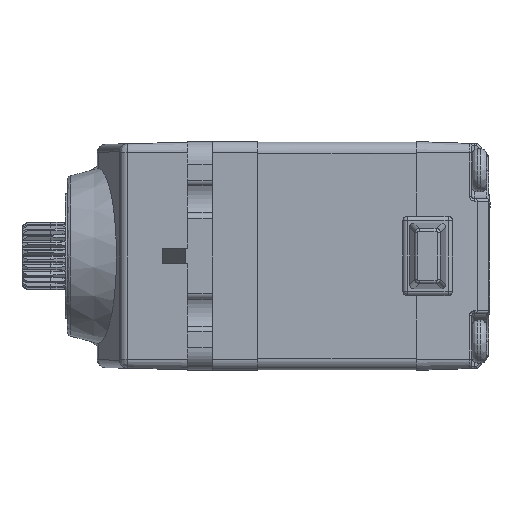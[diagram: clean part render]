
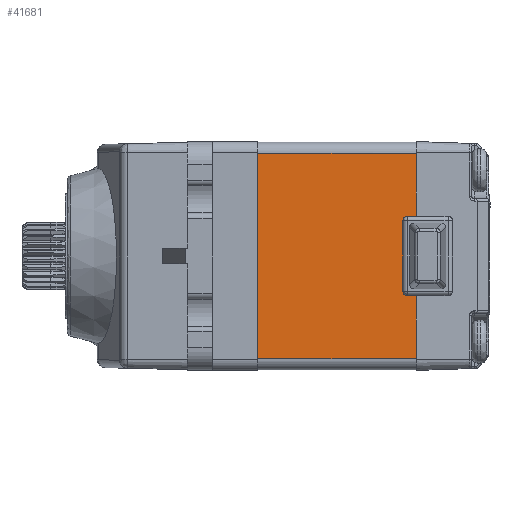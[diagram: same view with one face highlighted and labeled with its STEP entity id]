
A CAD part, left-side view. The second image highlights one B-rep face of the part: STEP entity #41681.
In plain terms, the highlighted planar face has unit normal (-1, 0, 0).
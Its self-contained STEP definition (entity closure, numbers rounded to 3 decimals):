
#293 = VECTOR ( 'NONE', #21950, 1000. ) ;
#501 = DIRECTION ( 'NONE',  ( 0., 0., -1. ) ) ;
#665 = DIRECTION ( 'NONE',  ( 0., 0., 1. ) ) ;
#2036 = CARTESIAN_POINT ( 'NONE',  ( -10.3, -4., -9.05 ) ) ;
#5808 = EDGE_CURVE ( 'NONE', #26012, #59942, #11778, .T. ) ;
#5958 = AXIS2_PLACEMENT_3D ( 'NONE', #10347, #49196, #32230 ) ;
#7373 = ORIENTED_EDGE ( 'NONE', *, *, #68847, .T. ) ;
#7451 = VERTEX_POINT ( 'NONE', #24563 ) ;
#8788 = LINE ( 'NONE', #61856, #30386 ) ;
#10347 = CARTESIAN_POINT ( 'NONE',  ( -10.3, -17.2, -3.1 ) ) ;
#11218 = CARTESIAN_POINT ( 'NONE',  ( -10.3, -18., 3.5 ) ) ;
#11241 = CARTESIAN_POINT ( 'NONE',  ( -10.3, -18., -3.5 ) ) ;
#11778 = CIRCLE ( 'NONE', #29801, 0.4 ) ;
#12563 = DIRECTION ( 'NONE',  ( -1., 0., 0. ) ) ;
#13571 = CARTESIAN_POINT ( 'NONE',  ( -10.3, -18., -9.05 ) ) ;
#16224 = ORIENTED_EDGE ( 'NONE', *, *, #23780, .T. ) ;
#16527 = ORIENTED_EDGE ( 'NONE', *, *, #66065, .T. ) ;
#16608 = VERTEX_POINT ( 'NONE', #39094 ) ;
#16630 = VERTEX_POINT ( 'NONE', #11218 ) ;
#16747 = LINE ( 'NONE', #38963, #17937 ) ;
#17261 = CIRCLE ( 'NONE', #5958, 0.4 ) ;
#17937 = VECTOR ( 'NONE', #501, 1000. ) ;
#18626 = VECTOR ( 'NONE', #69930, 1000. ) ;
#19017 = CARTESIAN_POINT ( 'NONE',  ( -10.3, -18., 7.2 ) ) ;
#19077 = LINE ( 'NONE', #50194, #40830 ) ;
#19694 = CARTESIAN_POINT ( 'NONE',  ( -10.3, -18., 3.5 ) ) ;
#20046 = CARTESIAN_POINT ( 'NONE',  ( -10.3, -18., 5.35 ) ) ;
#20364 = DIRECTION ( 'NONE',  ( 0., -1., 0. ) ) ;
#20423 = EDGE_CURVE ( 'NONE', #59599, #58272, #8788, .T. ) ;
#21493 = LINE ( 'NONE', #44072, #18626 ) ;
#21950 = DIRECTION ( 'NONE',  ( 0., 1., 0. ) ) ;
#23780 = EDGE_CURVE ( 'NONE', #65388, #59942, #62691, .T. ) ;
#24035 = DIRECTION ( 'NONE',  ( 0., 0., 1. ) ) ;
#24563 = CARTESIAN_POINT ( 'NONE',  ( -10.3, -4., 9.05 ) ) ;
#25710 = CARTESIAN_POINT ( 'NONE',  ( -10.3, -18., 9.05 ) ) ;
#26012 = VERTEX_POINT ( 'NONE', #26128 ) ;
#26015 = CARTESIAN_POINT ( 'NONE',  ( -10.3, -18., -9.05 ) ) ;
#26128 = CARTESIAN_POINT ( 'NONE',  ( -10.3, -17.2, 3.5 ) ) ;
#27226 = CARTESIAN_POINT ( 'NONE',  ( -10.3, -18., -3.5 ) ) ;
#27234 = ORIENTED_EDGE ( 'NONE', *, *, #61314, .F. ) ;
#29801 = AXIS2_PLACEMENT_3D ( 'NONE', #66032, #49060, #665 ) ;
#30386 = VECTOR ( 'NONE', #24035, 1000. ) ;
#30818 = ORIENTED_EDGE ( 'NONE', *, *, #53273, .T. ) ;
#32230 = DIRECTION ( 'NONE',  ( 0., 0., 1. ) ) ;
#32512 = LINE ( 'NONE', #27226, #293 ) ;
#33142 = ORIENTED_EDGE ( 'NONE', *, *, #5808, .F. ) ;
#34777 = FACE_OUTER_BOUND ( 'NONE', #57311, .T. ) ;
#37223 = ORIENTED_EDGE ( 'NONE', *, *, #58492, .T. ) ;
#38963 = CARTESIAN_POINT ( 'NONE',  ( -10.3, -4., -9.05 ) ) ;
#39094 = CARTESIAN_POINT ( 'NONE',  ( -10.3, -17.2, -3.5 ) ) ;
#40398 = EDGE_CURVE ( 'NONE', #43957, #7451, #21493, .T. ) ;
#40423 = DIRECTION ( 'NONE',  ( 0., 1., 0. ) ) ;
#40830 = VECTOR ( 'NONE', #61530, 1000. ) ;
#41356 = VERTEX_POINT ( 'NONE', #2036 ) ;
#41681 = ADVANCED_FACE ( 'NONE', ( #34777 ), #51059, .T. ) ;
#42952 = VECTOR ( 'NONE', #20364, 1000. ) ;
#43248 = CARTESIAN_POINT ( 'NONE',  ( -10.3, -16.8, -3.1 ) ) ;
#43957 = VERTEX_POINT ( 'NONE', #64571 ) ;
#44072 = CARTESIAN_POINT ( 'NONE',  ( -10.3, -18., 9.05 ) ) ;
#49060 = DIRECTION ( 'NONE',  ( -1., 0., 0. ) ) ;
#49196 = DIRECTION ( 'NONE',  ( -1., 0., 0. ) ) ;
#50194 = CARTESIAN_POINT ( 'NONE',  ( -10.3, -18., 3.5 ) ) ;
#51005 = DIRECTION ( 'NONE',  ( 0., 0., 1. ) ) ;
#51059 = PLANE ( 'NONE',  #69626 ) ;
#52873 = LINE ( 'NONE', #26015, #42952 ) ;
#53273 = EDGE_CURVE ( 'NONE', #26012, #16630, #19077, .T. ) ;
#53628 = VECTOR ( 'NONE', #51005, 1000. ) ;
#54057 = EDGE_CURVE ( 'NONE', #58272, #16608, #32512, .T. ) ;
#56333 = CARTESIAN_POINT ( 'NONE',  ( -10.3, -16.8, -9.05 ) ) ;
#56720 = CARTESIAN_POINT ( 'NONE',  ( -10.3, -18., -9.05 ) ) ;
#57311 = EDGE_LOOP ( 'NONE', ( #69680, #7373, #37223, #65227, #58427, #27234, #16224, #33142, #30818, #16527 ) ) ;
#58272 = VERTEX_POINT ( 'NONE', #11241 ) ;
#58427 = ORIENTED_EDGE ( 'NONE', *, *, #54057, .T. ) ;
#58492 = EDGE_CURVE ( 'NONE', #41356, #59599, #52873, .T. ) ;
#59599 = VERTEX_POINT ( 'NONE', #13571 ) ;
#59942 = VERTEX_POINT ( 'NONE', #66693 ) ;
#61314 = EDGE_CURVE ( 'NONE', #65388, #16608, #17261, .T. ) ;
#61530 = DIRECTION ( 'NONE',  ( 0., -1., 0. ) ) ;
#61736 = B_SPLINE_CURVE_WITH_KNOTS ( 'NONE', 3,
 ( #19694, #20046, #19017, #25710 ),
 .UNSPECIFIED., .F., .F.,
 ( 4, 4 ),
 ( 0., 1. ),
 .UNSPECIFIED. ) ;
#61856 = CARTESIAN_POINT ( 'NONE',  ( -10.3, -18., -9.05 ) ) ;
#62691 = LINE ( 'NONE', #56333, #53628 ) ;
#64571 = CARTESIAN_POINT ( 'NONE',  ( -10.3, -18., 9.05 ) ) ;
#65227 = ORIENTED_EDGE ( 'NONE', *, *, #20423, .T. ) ;
#65388 = VERTEX_POINT ( 'NONE', #43248 ) ;
#66032 = CARTESIAN_POINT ( 'NONE',  ( -10.3, -17.2, 3.1 ) ) ;
#66065 = EDGE_CURVE ( 'NONE', #16630, #43957, #61736, .T. ) ;
#66693 = CARTESIAN_POINT ( 'NONE',  ( -10.3, -16.8, 3.1 ) ) ;
#68847 = EDGE_CURVE ( 'NONE', #7451, #41356, #16747, .T. ) ;
#69626 = AXIS2_PLACEMENT_3D ( 'NONE', #56720, #12563, #40423 ) ;
#69680 = ORIENTED_EDGE ( 'NONE', *, *, #40398, .T. ) ;
#69930 = DIRECTION ( 'NONE',  ( 0., 1., 0. ) ) ;
